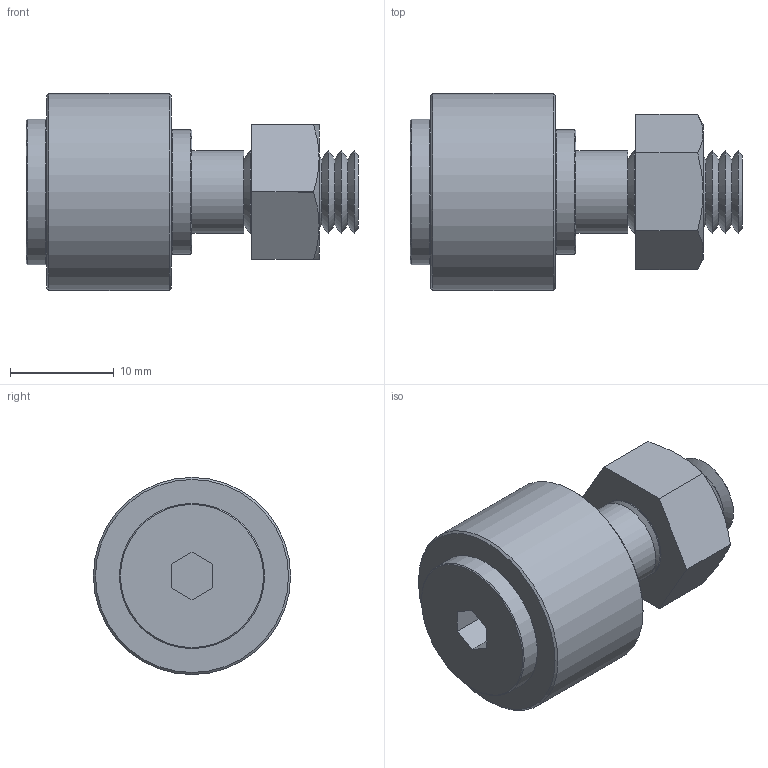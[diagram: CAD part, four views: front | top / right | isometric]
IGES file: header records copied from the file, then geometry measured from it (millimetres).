
Global section: file name:  ; native system: Kubotek KeyCreator; preprocessor: KCM Version 1.1.28; author: KeyCreator•p{ž; organization: Self; date: 20160520.064113; units: millimetre
Bounding box: 32 x 19 x 19 mm (x, y, z)
Surface area: 2339.4 mm2 (no closed solid volume)
Topology: 0 solids, 0 shells, 49 faces, 191 edges, 176 vertices
Faces by surface type: revolution 28, plane 21
